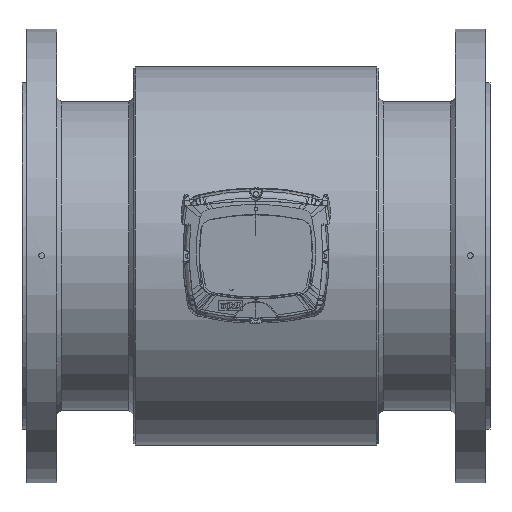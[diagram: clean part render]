
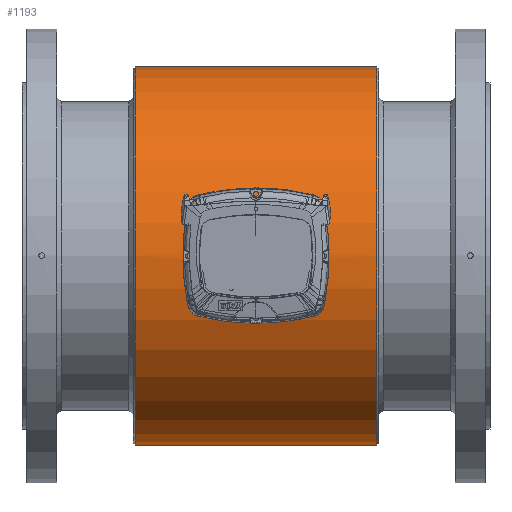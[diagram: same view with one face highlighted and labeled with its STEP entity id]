
A CAD part, top view. The second image highlights one B-rep face of the part: STEP entity #1193.
In plain terms, the highlighted cylindrical face has radius 202 mm (diameter 404 mm), a full revolution.
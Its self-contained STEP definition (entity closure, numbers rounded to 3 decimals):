
#1128=CARTESIAN_POINT('',(0.,-11.497,201.673));
#1129=VERTEX_POINT('',#1128);
#1139=CARTESIAN_POINT('',(0.,-11.498,201.672));
#1140=CARTESIAN_POINT('',(1.742,-11.498,201.672));
#1141=CARTESIAN_POINT('',(5.226,-10.712,201.719));
#1142=CARTESIAN_POINT('',(9.417,-7.415,201.878));
#1143=CARTESIAN_POINT('',(11.742,-2.646,202.005));
#1144=CARTESIAN_POINT('',(11.743,2.646,202.005));
#1145=CARTESIAN_POINT('',(9.415,7.415,201.878));
#1146=CARTESIAN_POINT('',(5.693,10.345,201.737));
#1147=CARTESIAN_POINT('',(1.76,11.54,201.67));
#1148=CARTESIAN_POINT('',(-1.76,11.538,201.67));
#1149=CARTESIAN_POINT('',(-6.259,10.179,201.747));
#1150=CARTESIAN_POINT('',(-9.81,6.919,201.9));
#1151=CARTESIAN_POINT('',(-11.739,2.056,202.005));
#1152=CARTESIAN_POINT('',(-11.744,-2.645,202.005));
#1153=CARTESIAN_POINT('',(-9.416,-7.416,201.878));
#1154=CARTESIAN_POINT('',(-5.227,-10.711,201.719));
#1155=CARTESIAN_POINT('',(-1.742,-11.498,201.672));
#1156=CARTESIAN_POINT('',(0.,-11.498,201.672));
#1157=B_SPLINE_CURVE_WITH_KNOTS('',3,(#1139,#1140,#1141,#1142,#1143,#1144,#1145,#1146,#1147,#1148,#1149,#1150,#1151,#1152,#1153,#1154,#1155,#1156),.UNSPECIFIED.,.T.,.U.,(4,1,1,1,1,1,1,1,1,1,1,1,1,1,1,4),(-7.286,-6.765,-6.245,-5.725,-5.204,-4.684,-4.163,-3.816,-3.469,-3.123,-2.429,-2.082,-1.561,-1.041,-0.52,0.0),.UNSPECIFIED.);
#1158=EDGE_CURVE('',#1129,#1129,#1157,.T.);
#1163=CARTESIAN_POINT('',(64.5,0.0,0.0));
#1164=DIRECTION('',(1.0,0.0,0.0));
#1165=DIRECTION('',(0.0,1.0,0.0));
#1166=AXIS2_PLACEMENT_3D('',#1163,#1164,#1165);
#1167=CYLINDRICAL_SURFACE('',#1166,202.);
#1168=CARTESIAN_POINT('',(-129.,202.0,0.0));
#1169=VERTEX_POINT('',#1168);
#1170=CARTESIAN_POINT('',(-129.,0.0,0.0));
#1171=DIRECTION('',(1.0,0.0,0.0));
#1172=DIRECTION('',(0.0,1.0,0.0));
#1173=AXIS2_PLACEMENT_3D('',#1170,#1171,#1172);
#1174=CIRCLE('',#1173,202.0);
#1175=EDGE_CURVE('',#1169,#1169,#1174,.T.);
#1176=ORIENTED_EDGE('',*,*,#1175,.T.);
#1177=EDGE_LOOP('',(#1176));
#1178=FACE_OUTER_BOUND('',#1177,.T.);
#1179=CARTESIAN_POINT('',(129.0,202.0,0.0));
#1180=VERTEX_POINT('',#1179);
#1181=CARTESIAN_POINT('',(129.0,0.0,0.0));
#1182=DIRECTION('',(1.0,0.0,0.0));
#1183=DIRECTION('',(0.0,1.0,0.0));
#1184=AXIS2_PLACEMENT_3D('',#1181,#1182,#1183);
#1185=CIRCLE('',#1184,202.0);
#1186=EDGE_CURVE('',#1180,#1180,#1185,.T.);
#1187=ORIENTED_EDGE('',*,*,#1186,.F.);
#1188=EDGE_LOOP('',(#1187));
#1189=FACE_BOUND('',#1188,.T.);
#1190=ORIENTED_EDGE('',*,*,#1158,.F.);
#1191=EDGE_LOOP('',(#1190));
#1192=FACE_BOUND('',#1191,.T.);
#1193=ADVANCED_FACE('',(#1178,#1189,#1192),#1167,.T.);
